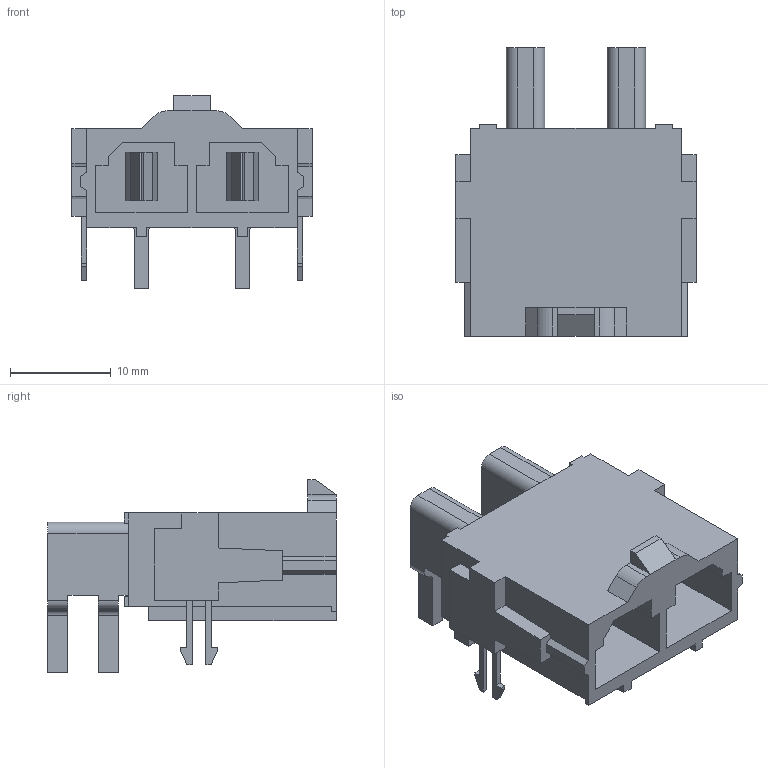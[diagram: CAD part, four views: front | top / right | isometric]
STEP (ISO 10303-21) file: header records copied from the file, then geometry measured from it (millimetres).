
FILE_DESCRIPTION(/* description */ (''),/* implementation_level */ '2;1');
FILE_NAME(/* name */ '428202223wbm000_01_214.stp',/* time_stamp */ '2023-02-28T15:08:53+08:00',/* author */ (''),/* organization */ (''),/* preprocessor_version */ 'ST-DEVELOPER v16.7',/* originating_system */ 'SIEMENS PLM Software NX 1919',/* authorisation */ '');
FILE_SCHEMA (('AUTOMOTIVE_DESIGN { 1 0 10303 214 3 1 1 1 }'));
Length unit declared in the file: millimetre
Products named in the file (1): 428202223wbm000_01
Bounding box: 23.82 x 28.59 x 19.1 mm (x, y, z)
Volume: 3628.7 mm3; surface area: 3582.5 mm2
Topology: 1 solids, 1 shells, 209 faces, 593 edges, 392 vertices
Faces by surface type: plane 187, cylinder 22
Entity records: 6695 total; most frequent: CARTESIAN_POINT 1195, ORIENTED_EDGE 1186, DIRECTION 1057, EDGE_CURVE 593, LINE 549, VECTOR 549, VERTEX_POINT 392, AXIS2_PLACEMENT_3D 254
